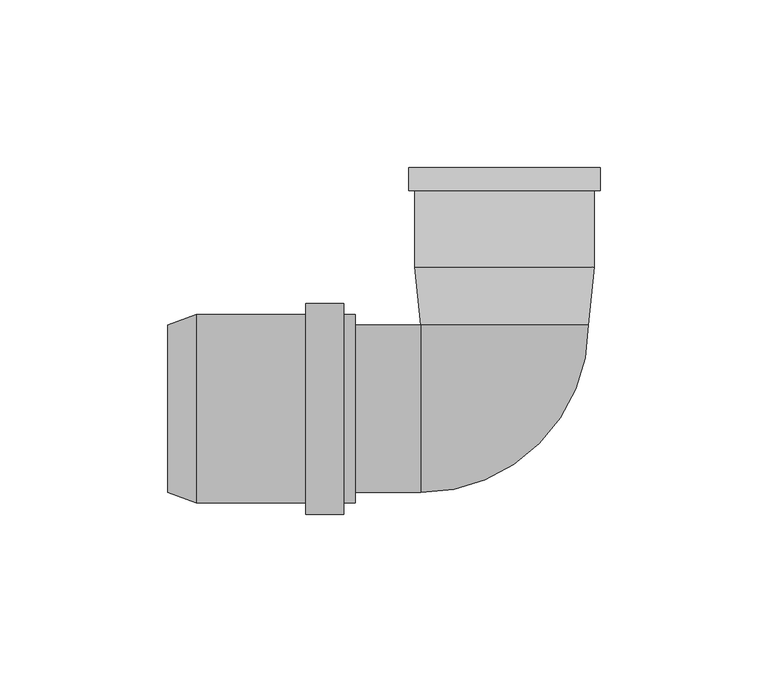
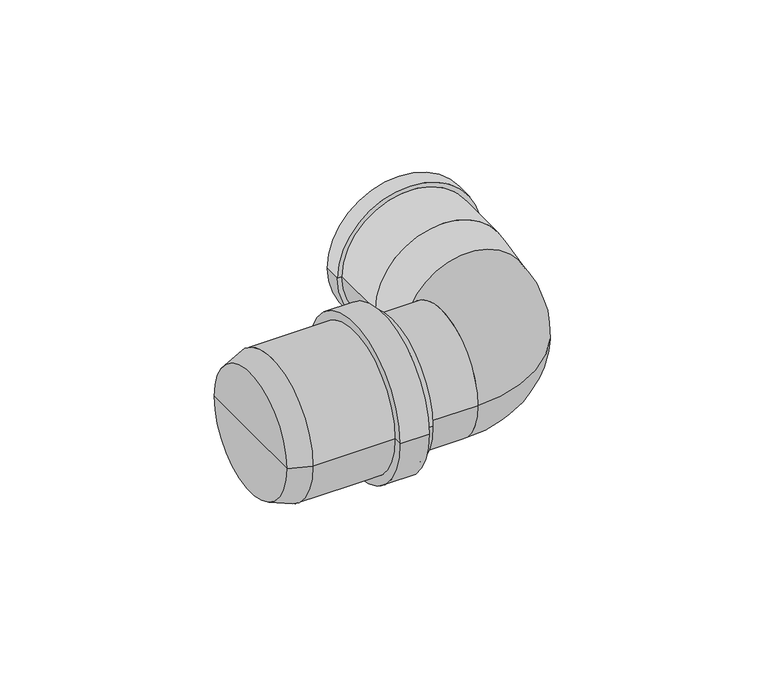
"""IFC4 building model written with IfcOpenShell, lengths in millimetres: pipe fitting geometry, pf_HTSW : pf_HTSW."""

from ifc_helpers import new_model, si_unit, point, frame, origin, origin_2d, place, context, project, spatial, polyline, circle_curve, ellipse_curve, trimmed, segment, composite_curve, outline, extrude, source, transform, mapped, element, save
from ifc_brep_helpers import plane_surface, cylinder_surface, revolved_surface, advanced_brep


def pipe_fitting_8b978a5b(model_context):
    return source(origin(), model_context, "Body", "SolidModel", [
        advanced_brep(
        [(-100.6, -25.0, 0.0), (-100.6, 25.0, 0.0), (-92.1, 28.1, 0.0), (-92.1, -28.1, 0.0), (-100.6, 0.0, 0.0), (-44.6, -28.1, 0.0), (-44.6, 28.1, 0.0), (-44.6, 25.0, 0.0), (-44.6, -25.0, 0.0), (-48.0, -28.1, 0.0), (-48.0, 28.1, 0.0), (-48.0, -31.5, 0.0), (-48.0, 31.5, 0.0), (-59.4, -31.5, 0.0), (-59.4, 31.5, 0.0), (-59.4, -28.1, 0.0), (-59.4, 28.1, 0.0), (-92.1, -25.0, 0.0), (-92.1, 25.0, 0.0), (-92.1, 0.0, 0.0)],
        [
            (0, 1, circle_curve(frame((-100.6, 0.0, 0.0), z_axis=(1.0, 0.0, 0.0), x_axis=(0.0, 1.0, 0.0)), 25.0)),
            (1, 2),
            (2, 3, circle_curve(frame((-92.1, 0.0, 0.0), z_axis=(-1.0, 0.0, 0.0), x_axis=(0.0, 1.0, 0.0)), 28.1)),
            (3, 0),
            (1, 0, circle_curve(frame((-100.6, 0.0, 0.0), z_axis=(1.0, 0.0, 0.0), x_axis=(0.0, 1.0, 0.0)), 25.0)),
            (3, 2, circle_curve(frame((-92.1, 0.0, 0.0), z_axis=(-1.0, 0.0, 0.0), x_axis=(0.0, 1.0, 0.0)), 28.1)),
            (4, 1),
            (0, 4),
            (5, 6, circle_curve(frame((-44.6, 0.0, 0.0), z_axis=(1.0, 0.0, 0.0), x_axis=(0.0, 1.0, 0.0)), 28.1)),
            (6, 7),
            (7, 8, circle_curve(frame((-44.6, 0.0, 0.0), z_axis=(-1.0, 0.0, 0.0), x_axis=(0.0, 1.0, 0.0)), 25.0)),
            (8, 5),
            (6, 5, circle_curve(frame((-44.6, 0.0, 0.0), z_axis=(1.0, 0.0, 0.0), x_axis=(0.0, 1.0, 0.0)), 28.1)),
            (8, 7, circle_curve(frame((-44.6, 0.0, 0.0), z_axis=(-1.0, 0.0, 0.0), x_axis=(0.0, 1.0, 0.0)), 25.0)),
            (9, 10, circle_curve(frame((-48.0, 0.0, 0.0), z_axis=(1.0, 0.0, 0.0), x_axis=(0.0, 1.0, 0.0)), 28.1)),
            (10, 6),
            (5, 9),
            (10, 9, circle_curve(frame((-48.0, 0.0, 0.0), z_axis=(1.0, 0.0, 0.0), x_axis=(0.0, 1.0, 0.0)), 28.1)),
            (11, 12, circle_curve(frame((-48.0, 0.0, 0.0), z_axis=(1.0, 0.0, 0.0), x_axis=(0.0, 1.0, 0.0)), 31.5)),
            (12, 10),
            (9, 11),
            (12, 11, circle_curve(frame((-48.0, 0.0, 0.0), z_axis=(1.0, 0.0, 0.0), x_axis=(0.0, 1.0, 0.0)), 31.5)),
            (13, 14, circle_curve(frame((-59.4, 0.0, 0.0), z_axis=(1.0, 0.0, 0.0), x_axis=(0.0, 1.0, 0.0)), 31.5)),
            (14, 12),
            (11, 13),
            (14, 13, circle_curve(frame((-59.4, 0.0, 0.0), z_axis=(1.0, 0.0, 0.0), x_axis=(0.0, 1.0, 0.0)), 31.5)),
            (15, 16, circle_curve(frame((-59.4, 0.0, 0.0), z_axis=(1.0, 0.0, 0.0), x_axis=(0.0, 1.0, 0.0)), 28.1)),
            (16, 14),
            (13, 15),
            (16, 15, circle_curve(frame((-59.4, 0.0, 0.0), z_axis=(1.0, 0.0, 0.0), x_axis=(0.0, 1.0, 0.0)), 28.1)),
            (2, 16),
            (15, 3),
            (17, 18, circle_curve(frame((-92.1, 0.0, 0.0), z_axis=(1.0, 0.0, 0.0), x_axis=(0.0, 1.0, 0.0)), 25.0)),
            (18, 19),
            (19, 17),
            (18, 17, circle_curve(frame((-92.1, 0.0, 0.0), z_axis=(1.0, 0.0, 0.0), x_axis=(0.0, 1.0, 0.0)), 25.0)),
            (7, 18),
            (17, 8),
        ],
        [
            revolved_surface(polyline([(-92.1, 28.1, 0.0), (-100.6, 25.0, 0.0)]), (-100.6, 0.0, 0.0), (-1.0, 0.0, 0.0)),
            plane_surface(frame((-100.6, 0.0, 0.0), z_axis=(-1.0, 0.0, 0.0), x_axis=(0.0, 1.0, 0.0))),
            plane_surface(frame((-44.6, 0.0, 0.0), z_axis=(1.0, 0.0, 0.0), x_axis=(0.0, 1.0, 0.0))),
            cylinder_surface(frame((-100.6, 0.0, 0.0), z_axis=(-1.0, 0.0, 0.0), x_axis=(0.0, 1.0, 0.0)), 28.1),
            plane_surface(frame((-48.0, 0.0, 0.0), z_axis=(1.0, 0.0, 0.0), x_axis=(0.0, 1.0, 0.0))),
            cylinder_surface(frame((-100.6, 0.0, 0.0), z_axis=(-1.0, 0.0, 0.0), x_axis=(0.0, 1.0, 0.0)), 31.5),
            plane_surface(frame((-59.4, 0.0, 0.0), z_axis=(-1.0, 0.0, 0.0), x_axis=(0.0, 1.0, 0.0))),
            plane_surface(frame((-92.1, 0.0, 0.0), z_axis=(1.0, 0.0, 0.0), x_axis=(0.0, 1.0, 0.0))),
            revolved_surface(polyline([(-92.1, 25.0, 0.0), (-44.6, 25.0, 0.0)]), (-100.6, 0.0, 0.0), (-1.0, 0.0, 0.0)),
        ],
        [
            (0, [[1, 2, 3, 4]]),
            (0, [[5, -4, 6, -2]]),
            (1, [[7, -1, 8]]),
            (1, [[-8, -5, -7]]),
            (2, [[9, 10, 11, 12]]),
            (2, [[13, -12, 14, -10]]),
            (3, [[15, 16, -9, 17]]),
            (3, [[18, -17, -13, -16]]),
            (4, [[19, 20, -15, 21]]),
            (4, [[22, -21, -18, -20]]),
            (5, [[23, 24, -19, 25]]),
            (5, [[26, -25, -22, -24]]),
            (6, [[27, 28, -23, 29]]),
            (6, [[30, -29, -26, -28]]),
            (3, [[-3, 31, -27, 32]]),
            (3, [[-6, -32, -30, -31]]),
            (7, [[33, 34, 35]]),
            (7, [[36, -35, -34]]),
            (8, [[-11, 37, -33, 38]]),
            (8, [[-14, -38, -36, -37]]),
        ],
    ),
        extrude(outline(composite_curve([segment(trimmed(circle_curve(origin_2d(), 25.0), [point((-25.0, 0.0))], [point((25.0, 0.0))], False, "CARTESIAN"), True, "CONTINUOUS"), segment(trimmed(circle_curve(origin_2d(), 25.0), [point((25.0, 0.0))], [point((-25.0, 0.0))], False, "CARTESIAN"), True, "CONTINUOUS")], self_intersect=False)), frame((-44.6, 0.0, 0.0), z_axis=(1.0, 0.0, 0.0), x_axis=(0.0, 1.0, 0.0)), (0.0, 0.0, 1.0), 19.6),
        advanced_brep(
        [(25.0, 25.0, 0.0), (-25.0, 25.0, 0.0), (-25.0, -25.0, 0.0)],
        [
            (0, 1, circle_curve(frame((0.0, 25.0, 0.0), z_axis=(0.0, 1.0, 0.0), x_axis=(-1.0, 0.0, 0.0)), 25.0)),
            (1, 0, circle_curve(frame((0.0, 25.0, 0.0), z_axis=(0.0, 1.0, 0.0), x_axis=(-1.0, 0.0, 0.0)), 25.0)),
            (2, 1, circle_curve(frame((-25.0, 0.0, 0.0), z_axis=(-1.0, 0.0, 0.0), x_axis=(0.0, 1.0, 0.0)), 25.0)),
            (1, 2, circle_curve(frame((-25.0, 0.0, 0.0), z_axis=(-1.0, 0.0, 0.0), x_axis=(0.0, 1.0, 0.0)), 25.0)),
            (0, 2, circle_curve(frame((-25.0, 25.0, 0.0), z_axis=(0.0, 0.0, -1.0), x_axis=(1.0, 0.0, 0.0)), 50.0)),
        ],
        [
            plane_surface(frame((-25.0, 25.0, -14.8), z_axis=(0.0, 1.0, 0.0), x_axis=(1.0, 0.0, 0.0))),
            plane_surface(frame((-25.0, 25.0, -14.8), z_axis=(-1.0, 0.0, 0.0), x_axis=(0.0, -1.0, 0.0))),
            revolved_surface(trimmed(ellipse_curve(frame((0.0, 25.0, 0.0), z_axis=(0.0, 1.0, 0.0), x_axis=(-1.0, 0.0, 0.0)), 25.0, 25.0), [point((25.0, 25.0, 0.0))], [point((-25.0, 25.0, 0.0))], True, "CARTESIAN"), (-25.0, 25.0, -14.8), (0.0, 0.0, -1.0)),
            revolved_surface(trimmed(ellipse_curve(frame((0.0, 25.0, 0.0), z_axis=(0.0, 1.0, 0.0), x_axis=(-1.0, 0.0, 0.0)), 25.0, 25.0), [point((-25.0, 25.0, 0.0))], [point((25.0, 25.0, 0.0))], True, "CARTESIAN"), (-25.0, 25.0, -14.8), (0.0, 0.0, -1.0)),
        ],
        [
            (0, [[1, 2]]),
            (1, [[3, 4]]),
            (2, [[-1, 5, -4]]),
            (3, [[-5, -2, -3]]),
        ],
    ),
        advanced_brep(
        [(25.0, 72.1, 0.0), (-25.0, 72.1, 0.0), (-25.0, 42.3, 0.0), (25.0, 42.3, 0.0), (28.6, 72.1, 0.0), (-28.6, 72.1, 0.0), (26.8, 42.3, 0.0), (-26.8, 42.3, 0.0), (-26.8, 65.1184027, 0.0), (26.8, 65.1184027, 0.0), (25.0, 25.0, 0.0), (-25.0, 25.0, 0.0), (0.0, 25.0, 0.0), (-28.6, 65.1184027, 0.0), (28.6, 65.1184027, 0.0), (0.0, 42.3, 0.0)],
        [
            (0, 1, circle_curve(frame((0.0, 72.1, 0.0), z_axis=(0.0, 1.0, 0.0), x_axis=(-1.0, 0.0, 0.0)), 25.0)),
            (1, 2),
            (2, 3, circle_curve(frame((0.0, 42.3, 0.0), z_axis=(0.0, -1.0, 0.0), x_axis=(-1.0, 0.0, 0.0)), 25.0)),
            (3, 0),
            (4, 5, circle_curve(frame((0.0, 72.1, 0.0), z_axis=(0.0, 1.0, 0.0), x_axis=(-1.0, 0.0, 0.0)), 28.6)),
            (5, 1),
            (0, 4),
            (6, 7, circle_curve(frame((0.0, 42.3, 0.0), z_axis=(0.0, 1.0, 0.0), x_axis=(-1.0, 0.0, 0.0)), 26.8)),
            (7, 8),
            (8, 9, circle_curve(frame((0.0, 65.1184027, 0.0), z_axis=(0.0, -1.0, 0.0), x_axis=(-1.0, 0.0, 0.0)), 26.8)),
            (9, 6),
            (10, 11, circle_curve(frame((0.0, 25.0, 0.0), z_axis=(0.0, 1.0, 0.0), x_axis=(-1.0, 0.0, 0.0)), 25.0)),
            (11, 7),
            (6, 10),
            (12, 11),
            (10, 12),
            (8, 13),
            (13, 14, circle_curve(frame((0.0, 65.1184027, 0.0), z_axis=(0.0, -1.0, 0.0), x_axis=(-1.0, 0.0, 0.0)), 28.6)),
            (14, 9),
            (1, 0, circle_curve(frame((0.0, 72.1, 0.0), z_axis=(0.0, 1.0, 0.0), x_axis=(-1.0, 0.0, 0.0)), 25.0)),
            (3, 2, circle_curve(frame((0.0, 42.3, 0.0), z_axis=(0.0, -1.0, 0.0), x_axis=(-1.0, 0.0, 0.0)), 25.0)),
            (5, 4, circle_curve(frame((0.0, 72.1, 0.0), z_axis=(0.0, 1.0, 0.0), x_axis=(-1.0, 0.0, 0.0)), 28.6)),
            (13, 5),
            (4, 14),
            (13, 14, circle_curve(frame((0.0, 65.1184027, 0.0), z_axis=(0.0, 1.0, 0.0), x_axis=(-1.0, 0.0, 0.0)), 28.6)),
            (8, 9, circle_curve(frame((0.0, 65.1184027, 0.0), z_axis=(0.0, 1.0, 0.0), x_axis=(-1.0, 0.0, 0.0)), 26.8)),
            (7, 6, circle_curve(frame((0.0, 42.3, 0.0), z_axis=(0.0, 1.0, 0.0), x_axis=(-1.0, 0.0, 0.0)), 26.8)),
            (11, 10, circle_curve(frame((0.0, 25.0, 0.0), z_axis=(0.0, 1.0, 0.0), x_axis=(-1.0, 0.0, 0.0)), 25.0)),
            (2, 15),
            (15, 3),
        ],
        [
            revolved_surface(polyline([(-25.0, 42.3, 0.0), (-25.0, 72.1, 0.0)]), (0.0, 72.1, 0.0), (0.0, -1.0, 0.0)),
            plane_surface(frame((0.0, 72.1, 0.0), z_axis=(0.0, 1.0, 0.0), x_axis=(-1.0, 0.0, 0.0))),
            cylinder_surface(frame((0.0, 72.1, 0.0), z_axis=(0.0, -1.0, 0.0), x_axis=(-1.0, 0.0, 0.0)), 26.8),
            revolved_surface(polyline([(-26.8, 42.3, 0.0), (-25.0, 25.0, 0.0)]), (0.0, 72.1, 0.0), (0.0, -1.0, 0.0)),
            plane_surface(frame((0.0, 25.0, 0.0), z_axis=(0.0, -1.0, 0.0), x_axis=(-1.0, 0.0, 0.0))),
            plane_surface(frame((0.0, 65.1184027, 0.0), z_axis=(0.0, -1.0, 0.0), x_axis=(-1.0, 0.0, 0.0))),
            cylinder_surface(frame((0.0, 72.1, 0.0), z_axis=(0.0, -1.0, 0.0), x_axis=(-1.0, 0.0, 0.0)), 28.6),
            plane_surface(frame((0.0, 42.3, 0.0), z_axis=(0.0, 1.0, 0.0), x_axis=(-1.0, 0.0, 0.0))),
        ],
        [
            (0, [[1, 2, 3, 4]]),
            (1, [[5, 6, -1, 7]]),
            (2, [[8, 9, 10, 11]]),
            (3, [[12, 13, -8, 14]]),
            (4, [[15, -12, 16]]),
            (5, [[-10, 17, 18, 19]]),
            (0, [[20, -4, 21, -2]]),
            (1, [[22, -7, -20, -6]]),
            (6, [[-18, 23, -5, 24]]),
            (6, [[25, -24, -22, -23]]),
            (5, [[26, -19, -25, -17]]),
            (2, [[27, -11, -26, -9]]),
            (3, [[28, -14, -27, -13]]),
            (4, [[-16, -28, -15]]),
            (7, [[-3, 29, 30]]),
            (7, [[-21, -30, -29]]),
        ],
    ),
    ])


if __name__ == "__main__":
    model = new_model("IFC4")
    model_context = context("Model", 3, world=origin())
    ifc_project = project(units=[si_unit("LENGTHUNIT", "METRE", prefix="MILLI")], contexts=[model_context])
    site = spatial("IfcSite", under=ifc_project)
    building = spatial("IfcBuilding", under=site)
    placement = place(None, origin())
    pipe_fitting_shape = pipe_fitting_8b978a5b(model_context)
    element("IfcPipeFitting", 1, ObjectType="pf_HTSW : pf_HTSW", at=placement, inside=building, context=model_context, shape_type="MappedRepresentation", body=[
        mapped(pipe_fitting_shape, transform((0.0, 0.0, 0.0), x_axis=(1.0, 0.0, 0.0), y_axis=(0.0, 1.0, 0.0), z_axis=(0.0, 0.0, 1.0))),
    ])
    save(model, "model.ifc")
